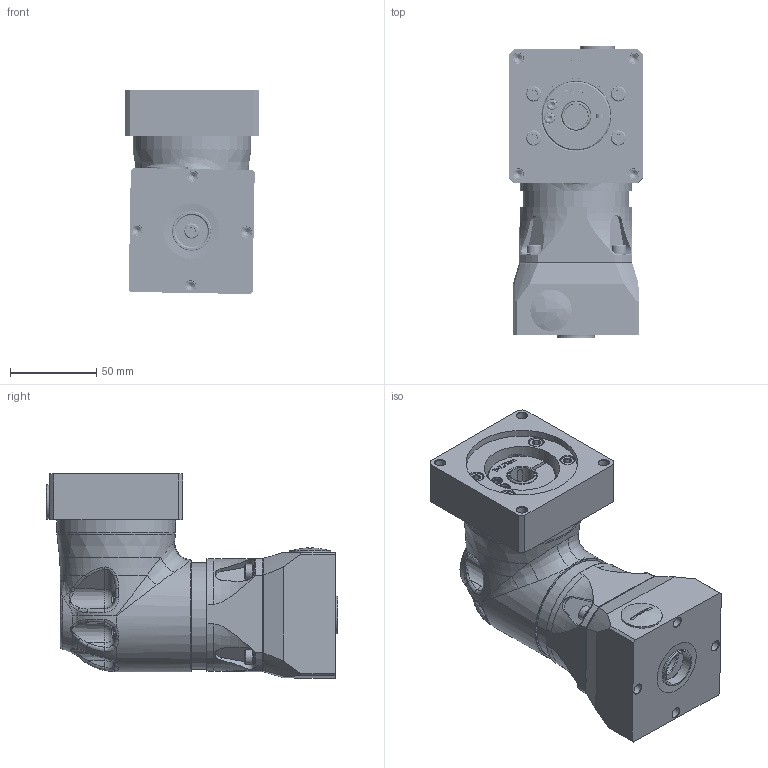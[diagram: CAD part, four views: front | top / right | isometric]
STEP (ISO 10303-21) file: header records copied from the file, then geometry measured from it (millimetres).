
FILE_DESCRIPTION (( 'STEP AP214' ), '1' );
FILE_NAME ('EPR-U-064-M1814-H1298 (14mm).STEP', '2024-10-25T16:00:04', ( '' ), ( '' ), 'SwSTEP 2.0', 'SolidWorks 2020', '' );
FILE_SCHEMA (( 'AUTOMOTIVE_DESIGN' ));
Length unit declared in the file: millimetre
Products named in the file (13): 23030134 EPL-U-064 to Macron 40-25 0.7500in Shaft; 51040002 14mm Plug; EPR-U-064-M1814-H1298 (14mm); 4505XXXX M5 SHCS_M5 X 25                                            ; 077-A01; EPR-U-064_EPR-U-064 IIG 14mm; 4505XXXX M5 SHCS_M5 X 20; 4505XXXX M5 SHCS_M5 X 16; 47050010 BVL M5 5x9x0.60mm ST; M1814_EPL-064; 51020004 M20 Threaded Plug; 55012113 EPL-U-064 to Macron 40-25 Adapter; H1298_EPL-U-064
Assembly tree (26 placements, depth 3):
  EPR-U-064-M1814-H1298 (14mm)
    EPR-U-064_EPR-U-064 IIG 14mm
    M1814_EPL-064
      077-A01
      51040002 14mm Plug
    4505XXXX M5 SHCS_M5 X 25                                              x4
    47050010 BVL M5 5x9x0.60mm ST  x4
    H1298_EPL-U-064
      55012113 EPL-U-064 to Macron 40-25 Adapter
      4505XXXX M5 SHCS_M5 X 20
      47050010 BVL M5 5x9x0.60mm ST  x5
      4505XXXX M5 SHCS_M5 X 16  x4
      23030134 EPL-U-064 to Macron 40-25 0.7500in Shaft
      51020004 M20 Threaded Plug
Bounding box: 77.4 x 169.54 x 118.66 mm (x, y, z)
Volume: 506012.1 mm3; surface area: 213034.6 mm2
Topology: 101 solids, 102 shells, 3871 faces, 10275 edges, 6642 vertices
Faces by surface type: cone 1531, bspline 1158, plane 612, cylinder 483, torus 81, sphere 6
Full cylindrical faces by diameter (mm): 1.7 x2, 2 x4, 2.5 x1, 3.3 x8, 3.7 x16, 4 x35, 4.2 x4, 4.45 x8, 4.5 x11, 5 x34, 5.49 x4, 5.5 x4, 5.55 x2, 6 x12, 7 x11, 7.5 x6, 8 x6, 8.5 x10, 9 x6, 11 x1, 11.5 x1, 11.75 x1, 12 x3, 13 x1, 14 x3, 14.2 x1, 15.192 x1, 15.2 x2, 16.5 x1, 17 x5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
Entity records: 67952 total; most frequent: CARTESIAN_POINT 28717, ORIENTED_EDGE 7412, DIRECTION 7355, EDGE_CURVE 3706, AXIS2_PLACEMENT_3D 3248, EDGE_LOOP 2646, VERTEX_POINT 2584, FACE_OUTER_BOUND 2165
